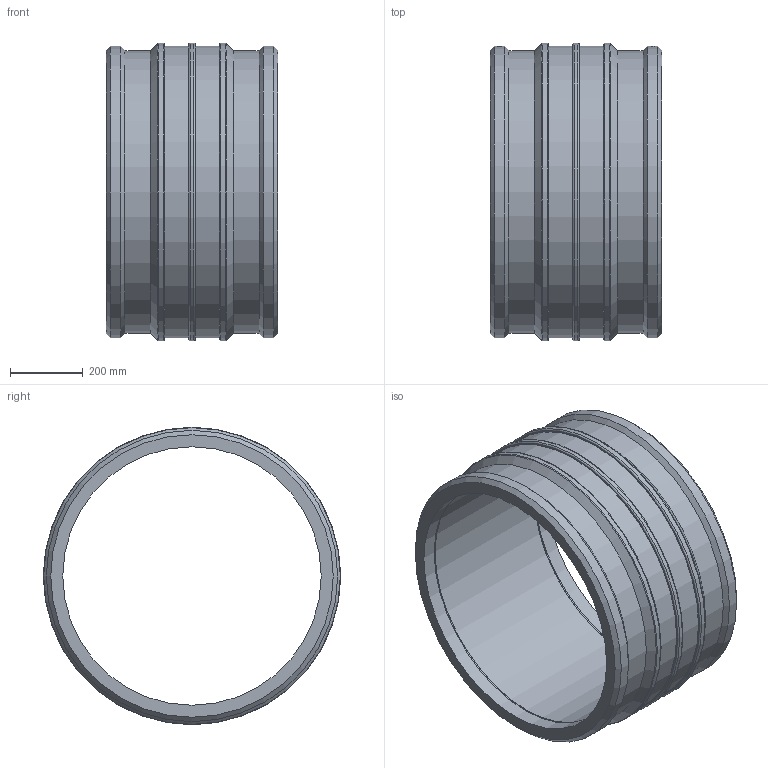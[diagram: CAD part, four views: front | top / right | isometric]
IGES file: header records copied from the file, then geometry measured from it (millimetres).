
Global section: file name: 460103710.ipt; native system: Autodesk Inventor 2015; preprocessor: unknown; author: KIM; date: 20190124.125942; units: millimetre
Bounding box: 472 x 817 x 817 mm (x, y, z)
Volume: 46663328.4 mm3; surface area: 2544435.8 mm2
Topology: 1 solids, 1 shells, 48 faces, 106 edges, 70 vertices
Faces by surface type: cylinder 15, plane 14, revolution 13, cone 6
Full cylindrical faces by diameter (mm): 4 x2, 776 x2, 800 x2, 800.66 x2, 817 x3
